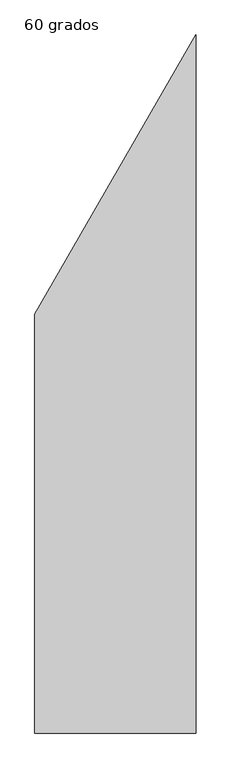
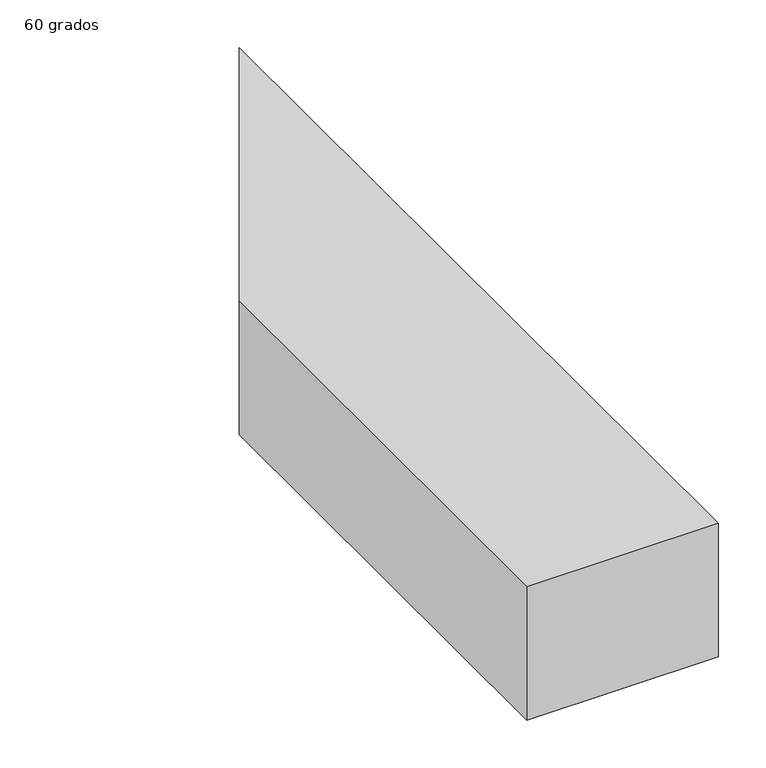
"""IFC4 building model written with IfcOpenShell, lengths in millimetres: duct fitting geometry, M_Transición rectangular - Ángulo : 60 grados."""

from ifc_helpers import new_model, si_unit, frame, origin, place, context, project, spatial, polyline, outline, extrude, source, transform, mapped, element, save


def duct_fitting_60_grados_7e79a23f(model_context):
    return source(origin(), model_context, "Body", "SweptSolid", [
        extrude(outline(polyline([(0.0, -300.0), (0.0, 300.0), (230.9401077, 700.0), (230.9401077, -300.0), (0.0, -300.0)])), frame((0.0, 0.0, -85.0), z_axis=(0.0, 0.0, 1.0), x_axis=(1.0, 0.0, 0.0)), (0.0, 0.0, 1.0), 170.0),
    ])


if __name__ == "__main__":
    model = new_model("IFC4")
    model_context = context("Model", 3, world=origin())
    ifc_project = project(units=[si_unit("LENGTHUNIT", "METRE", prefix="MILLI")], contexts=[model_context])
    site = spatial("IfcSite", under=ifc_project)
    building = spatial("IfcBuilding", under=site)
    placement = place(None, origin())
    duct_fitting_60_grados_shape = duct_fitting_60_grados_7e79a23f(model_context)
    element("IfcDuctFitting", 1, ObjectType="M_Transición rectangular - Ángulo : 60 grados", at=placement, inside=building, context=model_context, shape_type="MappedRepresentation", body=[
        mapped(duct_fitting_60_grados_shape, transform((0.0, 0.0, 0.0), x_axis=(1.0, 0.0, 0.0), y_axis=(0.0, 1.0, 0.0), z_axis=(0.0, 0.0, 1.0))),
    ])
    save(model, "model.ifc")
